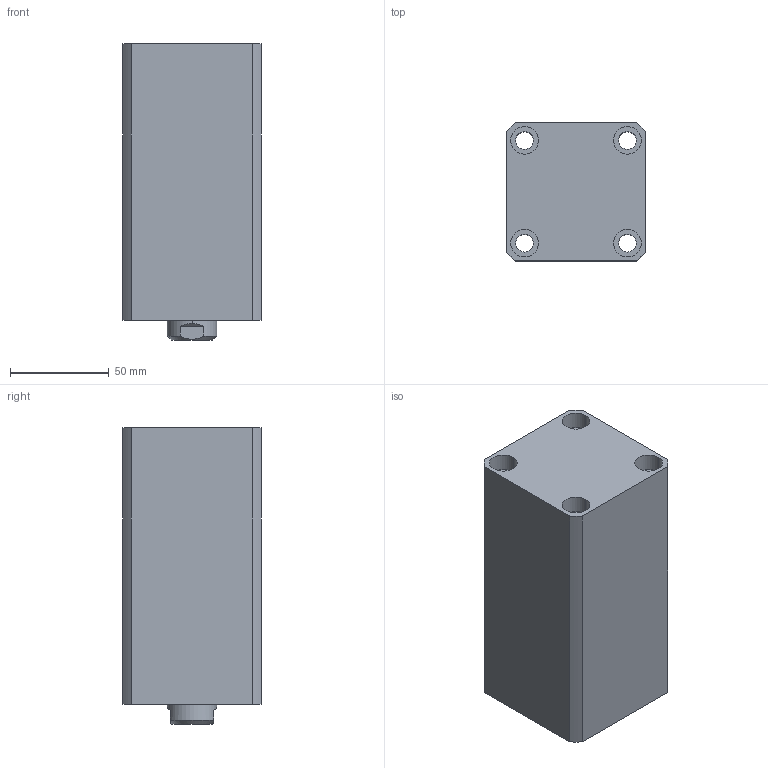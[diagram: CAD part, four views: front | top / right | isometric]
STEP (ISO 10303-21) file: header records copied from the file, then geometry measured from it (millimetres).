
FILE_DESCRIPTION (( 'STEP AP214' ), '1' );
FILE_NAME ('chtb-sd40x85n_asm.STEP', '2018-06-07T07:59:45', ( 'Windows' ), ( 'Microsoft' ), 'SwSTEP 2.0', 'SolidWorks 2015', '' );
FILE_SCHEMA (( 'AUTOMOTIVE_DESIGN' ));
Length unit declared in the file: millimetre
Products named in the file (4): CHTB-SD40QG; CHTB-SD40X85NHSG; CHTB-SD40X85NBT; chtb-sd40x85n_asm
Assembly tree (3 placements, depth 2):
  chtb-sd40x85n_asm
    CHTB-SD40X85NBT
    CHTB-SD40X85NHSG
    CHTB-SD40QG
Bounding box: 70 x 70 x 150 mm (x, y, z)
Volume: 565253.2 mm3; surface area: 109776.9 mm2
Topology: 3 solids, 3 shells, 157 faces, 401 edges, 266 vertices
Faces by surface type: cylinder 80, plane 36, torus 14, bspline 14, cone 13
Entity records: 9977 total; most frequent: CARTESIAN_POINT 6053, ORIENTED_EDGE 790, DIRECTION 768, EDGE_CURVE 395, AXIS2_PLACEMENT_3D 328, VERTEX_POINT 266, EDGE_LOOP 193, CIRCLE 179
